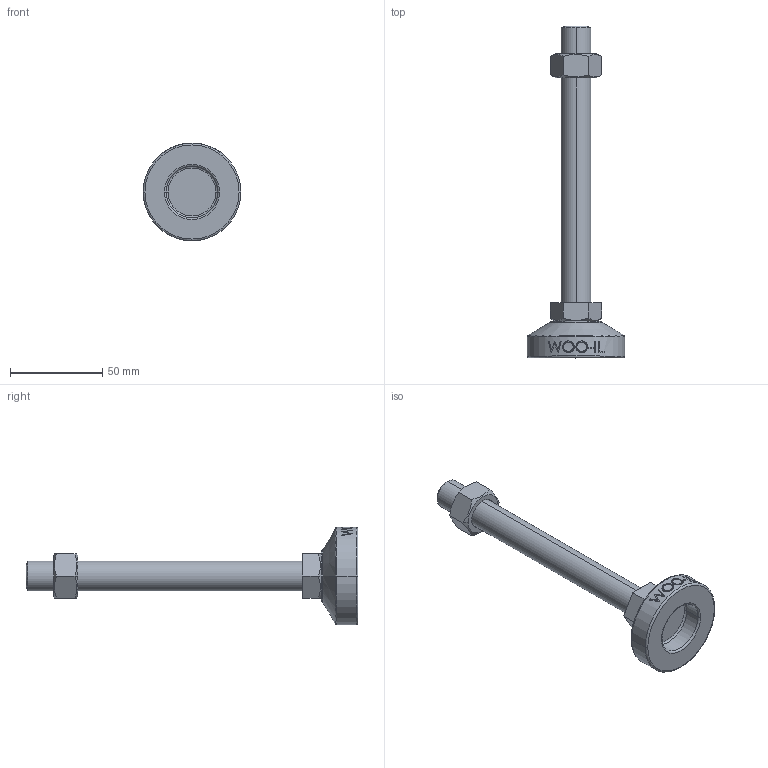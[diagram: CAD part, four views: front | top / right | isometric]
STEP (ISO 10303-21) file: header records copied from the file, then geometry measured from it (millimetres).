
FILE_DESCRIPTION (( 'STEP AP214' ), '1' );
FILE_NAME ('MFZ53-M16-150.step', '2021-01-15T07:04:33', ( '' ), ( '' ), 'SwSTEP 2.0', 'SolidWorks 2019', '' );
FILE_SCHEMA (( 'AUTOMOTIVE_DESIGN' ));
Length unit declared in the file: millimetre
Products named in the file (2): MFZ53-M16-150
Bounding box: 53 x 180 x 53 mm (x, y, z)
Volume: 68934.8 mm3; surface area: 19027.7 mm2
Topology: 3 solids, 3 shells, 106 faces, 243 edges, 154 vertices
Faces by surface type: plane 48, cylinder 18, bspline 16, cone 14, torus 10
Entity records: 4508 total; most frequent: CARTESIAN_POINT 2165, ORIENTED_EDGE 486, DIRECTION 439, EDGE_CURVE 243, AXIS2_PLACEMENT_3D 170, VERTEX_POINT 154, EDGE_LOOP 119, ADVANCED_FACE 106
